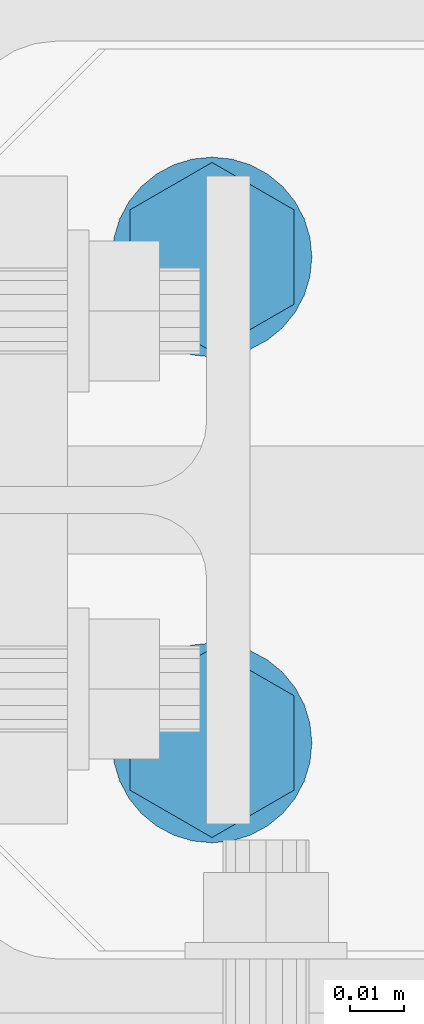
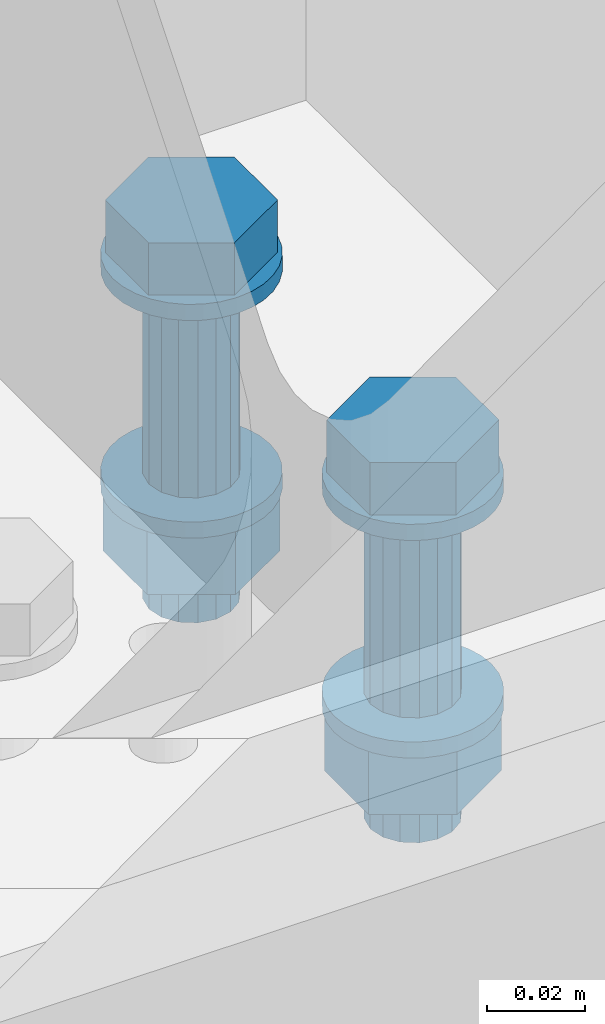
# One storey, part 382 of 825: 1 mechanical fastener.
"""IFC2X3 building model written with IfcOpenShell, lengths in millimetres."""

from ifc_helpers import new_model, entity, si_unit, converted_unit, origin_with_axes, place, context, project, spatial, faceted_brep, element, save


model = new_model("IFC2X3")

# Units and contexts
model_context = context("Model", 3, precision=1e-09, world=origin_with_axes())
ifc_project = project(units=[si_unit("LENGTHUNIT", "METRE", prefix="MILLI"), si_unit("AREAUNIT", "SQUARE_METRE"), si_unit("VOLUMEUNIT", "CUBIC_METRE"), converted_unit("PLANEANGLEUNIT", "DEGREE", entity("IfcPlaneAngleMeasure", 0.01745329), si_unit("PLANEANGLEUNIT", "RADIAN"), dimensions=[0, 0, 0, 0, 0, 0, 0])], contexts=[model_context])

# Site, building, storey
site_placement = place(None, origin_with_axes())
site = spatial("IfcSite", under=ifc_project, at=site_placement, Name="Cnopf'sche Kinderklinik", CompositionType="ELEMENT")
building_placement = place(site_placement, origin_with_axes())
building = spatial("IfcBuilding", under=site, at=building_placement, Name="Struktur 1", CompositionType="ELEMENT")
storey_placement = place(building_placement, origin_with_axes())
storey = spatial("IfcBuildingStorey", under=building, at=storey_placement, Name="Default Storey", CompositionType="ELEMENT", Elevation=0.0)

# Mechanical fastener
mechanical_fastener_placement = place(None, origin_with_axes())
element("IfcMechanicalFastener", 1, at=mechanical_fastener_placement, inside=storey, ObjectType="Bolt#2", NominalDiameter=20.0, NominalLength=85.0, context=model_context, shape_type="Brep", body=[
    faceted_brep([(4925.213402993, 7561.736971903, 12925.0), (4925.213402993, 7561.736971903, 12929.0), (4924.857930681, 7558.127800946, 12929.0), (4924.857930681, 7558.127800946, 12925.0), (4923.805174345, 7554.657328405, 12929.0), (4923.805174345, 7554.657328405, 12925.0), (4922.095590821, 7551.458922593, 12929.0), (4922.095590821, 7551.458922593, 12925.0), (4919.794878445, 7548.655496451, 12929.0), (4919.794878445, 7548.655496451, 12925.0), (4916.991452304, 7546.354784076, 12929.0), (4916.991452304, 7546.354784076, 12925.0), (4913.793046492, 7544.645200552, 12929.0), (4913.793046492, 7544.645200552, 12925.0), (4910.32257395, 7543.592444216, 12929.0), (4910.32257395, 7543.592444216, 12925.0), (4906.713402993, 7543.236971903, 12929.0), (4906.713402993, 7543.236971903, 12925.0), (4903.104232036, 7543.592444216, 12929.0), (4903.104232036, 7543.592444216, 12925.0), (4899.633759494, 7544.645200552, 12929.0), (4899.633759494, 7544.645200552, 12925.0), (4896.435353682, 7546.354784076, 12929.0), (4896.435353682, 7546.354784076, 12925.0), (4893.631927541, 7548.655496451, 12929.0), (4893.631927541, 7548.655496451, 12925.0), (4891.331215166, 7551.458922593, 12929.0), (4891.331215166, 7551.458922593, 12925.0), (4889.621631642, 7554.657328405, 12929.0), (4889.621631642, 7554.657328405, 12925.0), (4888.568875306, 7558.127800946, 12929.0), (4888.568875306, 7558.127800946, 12925.0), (4888.213402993, 7561.736971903, 12929.0), (4888.213402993, 7561.736971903, 12925.0), (4888.568875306, 7565.346142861, 12929.0), (4888.568875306, 7565.346142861, 12925.0), (4889.621631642, 7568.816615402, 12929.0), (4889.621631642, 7568.816615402, 12925.0), (4891.331215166, 7572.015021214, 12929.0), (4891.331215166, 7572.015021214, 12925.0), (4893.631927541, 7574.818447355, 12929.0), (4893.631927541, 7574.818447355, 12925.0), (4896.435353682, 7577.119159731, 12929.0), (4896.435353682, 7577.119159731, 12925.0), (4899.633759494, 7578.828743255, 12929.0), (4899.633759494, 7578.828743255, 12925.0), (4903.104232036, 7579.881499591, 12929.0), (4903.104232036, 7579.881499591, 12925.0), (4906.713402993, 7580.236971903, 12929.0), (4906.713402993, 7580.236971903, 12925.0), (4910.32257395, 7579.881499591, 12929.0), (4910.32257395, 7579.881499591, 12925.0), (4913.793046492, 7578.828743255, 12929.0), (4913.793046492, 7578.828743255, 12925.0), (4916.991452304, 7577.119159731, 12929.0), (4916.991452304, 7577.119159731, 12925.0), (4919.794878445, 7574.818447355, 12929.0), (4919.794878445, 7574.818447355, 12925.0), (4922.095590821, 7572.015021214, 12929.0), (4922.095590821, 7572.015021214, 12925.0), (4923.805174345, 7568.816615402, 12929.0), (4923.805174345, 7568.816615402, 12925.0), (4924.857930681, 7565.346142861, 12929.0), (4924.857930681, 7565.346142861, 12925.0)], [[[0, 1, 2, 3]], [[3, 2, 4, 5]], [[5, 4, 6, 7]], [[7, 6, 8, 9]], [[9, 8, 10, 11]], [[11, 10, 12, 13]], [[13, 12, 14, 15]], [[15, 14, 16, 17]], [[17, 16, 18, 19]], [[19, 18, 20, 21]], [[21, 20, 22, 23]], [[23, 22, 24, 25]], [[25, 24, 26, 27]], [[27, 26, 28, 29]], [[29, 28, 30, 31]], [[31, 30, 32, 33]], [[33, 32, 34, 35]], [[35, 34, 36, 37]], [[37, 36, 38, 39]], [[39, 38, 40, 41]], [[41, 40, 42, 43]], [[43, 42, 44, 45]], [[45, 44, 46, 47]], [[47, 46, 48, 49]], [[49, 48, 50, 51]], [[51, 50, 52, 53]], [[53, 52, 54, 55]], [[55, 54, 56, 57]], [[57, 56, 58, 59]], [[59, 58, 60, 61]], [[61, 60, 62, 63]], [[63, 62, 1, 0]], [[2, 1, 62, 60, 58, 56, 54, 52, 50, 48, 46, 44, 42, 40, 38, 36, 34, 32, 30, 28, 26, 24, 22, 20, 18, 16, 14, 12, 10, 8, 6, 4]], [[63, 0, 3, 5, 7, 9, 11, 13, 15, 17, 19, 21, 23, 25, 27, 29, 31, 33, 35, 37, 39, 41, 43, 45, 47, 49, 51, 53, 55, 57, 59, 61]]]),
    faceted_brep([(4925.213402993, 7471.736971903, 12925.0), (4925.213402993, 7471.736971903, 12929.0), (4924.857930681, 7468.127800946, 12929.0), (4924.857930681, 7468.127800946, 12925.0), (4923.805174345, 7464.657328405, 12929.0), (4923.805174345, 7464.657328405, 12925.0), (4922.095590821, 7461.458922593, 12929.0), (4922.095590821, 7461.458922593, 12925.0), (4919.794878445, 7458.655496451, 12929.0), (4919.794878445, 7458.655496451, 12925.0), (4916.991452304, 7456.354784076, 12929.0), (4916.991452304, 7456.354784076, 12925.0), (4913.793046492, 7454.645200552, 12929.0), (4913.793046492, 7454.645200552, 12925.0), (4910.32257395, 7453.592444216, 12929.0), (4910.32257395, 7453.592444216, 12925.0), (4906.713402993, 7453.236971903, 12929.0), (4906.713402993, 7453.236971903, 12925.0), (4903.104232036, 7453.592444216, 12929.0), (4903.104232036, 7453.592444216, 12925.0), (4899.633759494, 7454.645200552, 12929.0), (4899.633759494, 7454.645200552, 12925.0), (4896.435353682, 7456.354784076, 12929.0), (4896.435353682, 7456.354784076, 12925.0), (4893.631927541, 7458.655496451, 12929.0), (4893.631927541, 7458.655496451, 12925.0), (4891.331215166, 7461.458922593, 12929.0), (4891.331215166, 7461.458922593, 12925.0), (4889.621631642, 7464.657328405, 12929.0), (4889.621631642, 7464.657328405, 12925.0), (4888.568875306, 7468.127800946, 12929.0), (4888.568875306, 7468.127800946, 12925.0), (4888.213402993, 7471.736971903, 12929.0), (4888.213402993, 7471.736971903, 12925.0), (4888.568875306, 7475.346142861, 12929.0), (4888.568875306, 7475.346142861, 12925.0), (4889.621631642, 7478.816615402, 12929.0), (4889.621631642, 7478.816615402, 12925.0), (4891.331215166, 7482.015021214, 12929.0), (4891.331215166, 7482.015021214, 12925.0), (4893.631927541, 7484.818447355, 12929.0), (4893.631927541, 7484.818447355, 12925.0), (4896.435353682, 7487.119159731, 12929.0), (4896.435353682, 7487.119159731, 12925.0), (4899.633759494, 7488.828743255, 12929.0), (4899.633759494, 7488.828743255, 12925.0), (4903.104232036, 7489.881499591, 12929.0), (4903.104232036, 7489.881499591, 12925.0), (4906.713402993, 7490.236971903, 12929.0), (4906.713402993, 7490.236971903, 12925.0), (4910.32257395, 7489.881499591, 12929.0), (4910.32257395, 7489.881499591, 12925.0), (4913.793046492, 7488.828743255, 12929.0), (4913.793046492, 7488.828743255, 12925.0), (4916.991452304, 7487.119159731, 12929.0), (4916.991452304, 7487.119159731, 12925.0), (4919.794878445, 7484.818447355, 12929.0), (4919.794878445, 7484.818447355, 12925.0), (4922.095590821, 7482.015021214, 12929.0), (4922.095590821, 7482.015021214, 12925.0), (4923.805174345, 7478.816615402, 12929.0), (4923.805174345, 7478.816615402, 12925.0), (4924.857930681, 7475.346142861, 12929.0), (4924.857930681, 7475.346142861, 12925.0)], [[[0, 1, 2, 3]], [[3, 2, 4, 5]], [[5, 4, 6, 7]], [[7, 6, 8, 9]], [[9, 8, 10, 11]], [[11, 10, 12, 13]], [[13, 12, 14, 15]], [[15, 14, 16, 17]], [[17, 16, 18, 19]], [[19, 18, 20, 21]], [[21, 20, 22, 23]], [[23, 22, 24, 25]], [[25, 24, 26, 27]], [[27, 26, 28, 29]], [[29, 28, 30, 31]], [[31, 30, 32, 33]], [[33, 32, 34, 35]], [[35, 34, 36, 37]], [[37, 36, 38, 39]], [[39, 38, 40, 41]], [[41, 40, 42, 43]], [[43, 42, 44, 45]], [[45, 44, 46, 47]], [[47, 46, 48, 49]], [[49, 48, 50, 51]], [[51, 50, 52, 53]], [[53, 52, 54, 55]], [[55, 54, 56, 57]], [[57, 56, 58, 59]], [[59, 58, 60, 61]], [[61, 60, 62, 63]], [[63, 62, 1, 0]], [[2, 1, 62, 60, 58, 56, 54, 52, 50, 48, 46, 44, 42, 40, 38, 36, 34, 32, 30, 28, 26, 24, 22, 20, 18, 16, 14, 12, 10, 8, 6, 4]], [[63, 0, 3, 5, 7, 9, 11, 13, 15, 17, 19, 21, 23, 25, 27, 29, 31, 33, 35, 37, 39, 41, 43, 45, 47, 49, 51, 53, 55, 57, 59, 61]]]),
    faceted_brep([(4891.544968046, 7552.979471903, 12942.0), (4891.544968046, 7552.979471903, 12929.0), (4906.713402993, 7544.221971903, 12929.0), (4906.713402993, 7544.221971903, 12942.0), (4921.88183794, 7552.979471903, 12929.0), (4921.88183794, 7552.979471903, 12942.0), (4921.88183794, 7570.494471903, 12929.0), (4921.88183794, 7570.494471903, 12942.0), (4906.713402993, 7579.251971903, 12929.0), (4906.713402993, 7579.251971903, 12942.0), (4891.544968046, 7570.494471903, 12929.0), (4891.544968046, 7570.494471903, 12942.0)], [[[0, 1, 2, 3]], [[3, 2, 4, 5]], [[5, 4, 6, 7]], [[7, 6, 8, 9]], [[9, 8, 10, 11]], [[11, 10, 1, 0]], [[3, 5, 7, 9, 11, 0]], [[2, 1, 10, 8, 6, 4]]]),
    faceted_brep([(4891.544968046, 7462.979471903, 12942.0), (4891.544968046, 7462.979471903, 12929.0), (4906.713402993, 7454.221971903, 12929.0), (4906.713402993, 7454.221971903, 12942.0), (4921.88183794, 7462.979471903, 12929.0), (4921.88183794, 7462.979471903, 12942.0), (4921.88183794, 7480.494471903, 12929.0), (4921.88183794, 7480.494471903, 12942.0), (4906.713402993, 7489.251971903, 12929.0), (4906.713402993, 7489.251971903, 12942.0), (4891.544968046, 7480.494471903, 12929.0), (4891.544968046, 7480.494471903, 12942.0)], [[[0, 1, 2, 3]], [[3, 2, 4, 5]], [[5, 4, 6, 7]], [[7, 6, 8, 9]], [[9, 8, 10, 11]], [[11, 10, 1, 0]], [[3, 5, 7, 9, 11, 0]], [[2, 1, 10, 8, 6, 4]]]),
    faceted_brep([(4916.713402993, 7561.736971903, 12875.0), (4916.713402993, 7561.736971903, 12925.0), (4915.952198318, 7557.91013758, 12925.0), (4915.952198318, 7557.91013758, 12875.0), (4913.784470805, 7554.665904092, 12925.0), (4913.784470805, 7554.665904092, 12875.0), (4910.540237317, 7552.498176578, 12925.0), (4910.540237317, 7552.498176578, 12875.0), (4906.713402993, 7551.736971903, 12925.0), (4906.713402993, 7551.736971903, 12875.0), (4902.88656867, 7552.498176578, 12925.0), (4902.88656867, 7552.498176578, 12875.0), (4899.642335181, 7554.665904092, 12925.0), (4899.642335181, 7554.665904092, 12875.0), (4897.474607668, 7557.91013758, 12925.0), (4897.474607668, 7557.91013758, 12875.0), (4896.713402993, 7561.736971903, 12925.0), (4896.713402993, 7561.736971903, 12875.0), (4897.474607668, 7565.563806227, 12925.0), (4897.474607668, 7565.563806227, 12875.0), (4899.642335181, 7568.808039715, 12925.0), (4899.642335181, 7568.808039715, 12875.0), (4902.88656867, 7570.975767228, 12925.0), (4902.88656867, 7570.975767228, 12875.0), (4906.713402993, 7571.736971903, 12925.0), (4906.713402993, 7571.736971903, 12875.0), (4910.540237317, 7570.975767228, 12925.0), (4910.540237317, 7570.975767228, 12875.0), (4913.784470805, 7568.808039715, 12925.0), (4913.784470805, 7568.808039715, 12875.0), (4915.952198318, 7565.563806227, 12925.0), (4915.952198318, 7565.563806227, 12875.0)], [[[0, 1, 2, 3]], [[3, 2, 4, 5]], [[5, 4, 6, 7]], [[7, 6, 8, 9]], [[9, 8, 10, 11]], [[11, 10, 12, 13]], [[13, 12, 14, 15]], [[15, 14, 16, 17]], [[17, 16, 18, 19]], [[19, 18, 20, 21]], [[21, 20, 22, 23]], [[23, 22, 24, 25]], [[25, 24, 26, 27]], [[27, 26, 28, 29]], [[29, 28, 30, 31]], [[31, 30, 1, 0]], [[2, 1, 30, 28, 26, 24, 22, 20, 18, 16, 14, 12, 10, 8, 6, 4]], [[31, 0, 3, 5, 7, 9, 11, 13, 15, 17, 19, 21, 23, 25, 27, 29]]]),
    faceted_brep([(4916.713402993, 7471.736971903, 12875.0), (4916.713402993, 7471.736971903, 12925.0), (4915.952198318, 7467.91013758, 12925.0), (4915.952198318, 7467.91013758, 12875.0), (4913.784470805, 7464.665904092, 12925.0), (4913.784470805, 7464.665904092, 12875.0), (4910.540237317, 7462.498176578, 12925.0), (4910.540237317, 7462.498176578, 12875.0), (4906.713402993, 7461.736971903, 12925.0), (4906.713402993, 7461.736971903, 12875.0), (4902.88656867, 7462.498176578, 12925.0), (4902.88656867, 7462.498176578, 12875.0), (4899.642335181, 7464.665904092, 12925.0), (4899.642335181, 7464.665904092, 12875.0), (4897.474607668, 7467.91013758, 12925.0), (4897.474607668, 7467.91013758, 12875.0), (4896.713402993, 7471.736971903, 12925.0), (4896.713402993, 7471.736971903, 12875.0), (4897.474607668, 7475.563806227, 12925.0), (4897.474607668, 7475.563806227, 12875.0), (4899.642335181, 7478.808039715, 12925.0), (4899.642335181, 7478.808039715, 12875.0), (4902.88656867, 7480.975767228, 12925.0), (4902.88656867, 7480.975767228, 12875.0), (4906.713402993, 7481.736971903, 12925.0), (4906.713402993, 7481.736971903, 12875.0), (4910.540237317, 7480.975767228, 12925.0), (4910.540237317, 7480.975767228, 12875.0), (4913.784470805, 7478.808039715, 12925.0), (4913.784470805, 7478.808039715, 12875.0), (4915.952198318, 7475.563806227, 12925.0), (4915.952198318, 7475.563806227, 12875.0)], [[[0, 1, 2, 3]], [[3, 2, 4, 5]], [[5, 4, 6, 7]], [[7, 6, 8, 9]], [[9, 8, 10, 11]], [[11, 10, 12, 13]], [[13, 12, 14, 15]], [[15, 14, 16, 17]], [[17, 16, 18, 19]], [[19, 18, 20, 21]], [[21, 20, 22, 23]], [[23, 22, 24, 25]], [[25, 24, 26, 27]], [[27, 26, 28, 29]], [[29, 28, 30, 31]], [[31, 30, 1, 0]], [[2, 1, 30, 28, 26, 24, 22, 20, 18, 16, 14, 12, 10, 8, 6, 4]], [[31, 0, 3, 5, 7, 9, 11, 13, 15, 17, 19, 21, 23, 25, 27, 29]]]),
    faceted_brep([(4925.213402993, 7561.736971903, 12871.0), (4925.213402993, 7561.736971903, 12875.0), (4924.857930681, 7558.127800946, 12875.0), (4924.857930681, 7558.127800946, 12871.0), (4923.805174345, 7554.657328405, 12875.0), (4923.805174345, 7554.657328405, 12871.0), (4922.095590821, 7551.458922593, 12875.0), (4922.095590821, 7551.458922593, 12871.0), (4919.794878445, 7548.655496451, 12875.0), (4919.794878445, 7548.655496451, 12871.0), (4916.991452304, 7546.354784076, 12875.0), (4916.991452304, 7546.354784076, 12871.0), (4913.793046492, 7544.645200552, 12875.0), (4913.793046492, 7544.645200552, 12871.0), (4910.32257395, 7543.592444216, 12875.0), (4910.32257395, 7543.592444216, 12871.0), (4906.713402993, 7543.236971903, 12875.0), (4906.713402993, 7543.236971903, 12871.0), (4903.104232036, 7543.592444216, 12875.0), (4903.104232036, 7543.592444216, 12871.0), (4899.633759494, 7544.645200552, 12875.0), (4899.633759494, 7544.645200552, 12871.0), (4896.435353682, 7546.354784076, 12875.0), (4896.435353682, 7546.354784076, 12871.0), (4893.631927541, 7548.655496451, 12875.0), (4893.631927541, 7548.655496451, 12871.0), (4891.331215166, 7551.458922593, 12875.0), (4891.331215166, 7551.458922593, 12871.0), (4889.621631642, 7554.657328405, 12875.0), (4889.621631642, 7554.657328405, 12871.0), (4888.568875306, 7558.127800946, 12875.0), (4888.568875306, 7558.127800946, 12871.0), (4888.213402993, 7561.736971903, 12875.0), (4888.213402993, 7561.736971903, 12871.0), (4888.568875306, 7565.346142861, 12875.0), (4888.568875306, 7565.346142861, 12871.0), (4889.621631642, 7568.816615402, 12875.0), (4889.621631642, 7568.816615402, 12871.0), (4891.331215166, 7572.015021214, 12875.0), (4891.331215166, 7572.015021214, 12871.0), (4893.631927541, 7574.818447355, 12875.0), (4893.631927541, 7574.818447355, 12871.0), (4896.435353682, 7577.119159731, 12875.0), (4896.435353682, 7577.119159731, 12871.0), (4899.633759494, 7578.828743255, 12875.0), (4899.633759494, 7578.828743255, 12871.0), (4903.104232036, 7579.881499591, 12875.0), (4903.104232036, 7579.881499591, 12871.0), (4906.713402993, 7580.236971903, 12875.0), (4906.713402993, 7580.236971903, 12871.0), (4910.32257395, 7579.881499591, 12875.0), (4910.32257395, 7579.881499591, 12871.0), (4913.793046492, 7578.828743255, 12875.0), (4913.793046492, 7578.828743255, 12871.0), (4916.991452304, 7577.119159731, 12875.0), (4916.991452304, 7577.119159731, 12871.0), (4919.794878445, 7574.818447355, 12875.0), (4919.794878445, 7574.818447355, 12871.0), (4922.095590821, 7572.015021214, 12875.0), (4922.095590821, 7572.015021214, 12871.0), (4923.805174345, 7568.816615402, 12875.0), (4923.805174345, 7568.816615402, 12871.0), (4924.857930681, 7565.346142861, 12875.0), (4924.857930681, 7565.346142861, 12871.0)], [[[0, 1, 2, 3]], [[3, 2, 4, 5]], [[5, 4, 6, 7]], [[7, 6, 8, 9]], [[9, 8, 10, 11]], [[11, 10, 12, 13]], [[13, 12, 14, 15]], [[15, 14, 16, 17]], [[17, 16, 18, 19]], [[19, 18, 20, 21]], [[21, 20, 22, 23]], [[23, 22, 24, 25]], [[25, 24, 26, 27]], [[27, 26, 28, 29]], [[29, 28, 30, 31]], [[31, 30, 32, 33]], [[33, 32, 34, 35]], [[35, 34, 36, 37]], [[37, 36, 38, 39]], [[39, 38, 40, 41]], [[41, 40, 42, 43]], [[43, 42, 44, 45]], [[45, 44, 46, 47]], [[47, 46, 48, 49]], [[49, 48, 50, 51]], [[51, 50, 52, 53]], [[53, 52, 54, 55]], [[55, 54, 56, 57]], [[57, 56, 58, 59]], [[59, 58, 60, 61]], [[61, 60, 62, 63]], [[63, 62, 1, 0]], [[2, 1, 62, 60, 58, 56, 54, 52, 50, 48, 46, 44, 42, 40, 38, 36, 34, 32, 30, 28, 26, 24, 22, 20, 18, 16, 14, 12, 10, 8, 6, 4]], [[63, 0, 3, 5, 7, 9, 11, 13, 15, 17, 19, 21, 23, 25, 27, 29, 31, 33, 35, 37, 39, 41, 43, 45, 47, 49, 51, 53, 55, 57, 59, 61]]]),
    faceted_brep([(4925.213402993, 7471.736971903, 12871.0), (4925.213402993, 7471.736971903, 12875.0), (4924.857930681, 7468.127800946, 12875.0), (4924.857930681, 7468.127800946, 12871.0), (4923.805174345, 7464.657328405, 12875.0), (4923.805174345, 7464.657328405, 12871.0), (4922.095590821, 7461.458922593, 12875.0), (4922.095590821, 7461.458922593, 12871.0), (4919.794878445, 7458.655496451, 12875.0), (4919.794878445, 7458.655496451, 12871.0), (4916.991452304, 7456.354784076, 12875.0), (4916.991452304, 7456.354784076, 12871.0), (4913.793046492, 7454.645200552, 12875.0), (4913.793046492, 7454.645200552, 12871.0), (4910.32257395, 7453.592444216, 12875.0), (4910.32257395, 7453.592444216, 12871.0), (4906.713402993, 7453.236971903, 12875.0), (4906.713402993, 7453.236971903, 12871.0), (4903.104232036, 7453.592444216, 12875.0), (4903.104232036, 7453.592444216, 12871.0), (4899.633759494, 7454.645200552, 12875.0), (4899.633759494, 7454.645200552, 12871.0), (4896.435353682, 7456.354784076, 12875.0), (4896.435353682, 7456.354784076, 12871.0), (4893.631927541, 7458.655496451, 12875.0), (4893.631927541, 7458.655496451, 12871.0), (4891.331215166, 7461.458922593, 12875.0), (4891.331215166, 7461.458922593, 12871.0), (4889.621631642, 7464.657328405, 12875.0), (4889.621631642, 7464.657328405, 12871.0), (4888.568875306, 7468.127800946, 12875.0), (4888.568875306, 7468.127800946, 12871.0), (4888.213402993, 7471.736971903, 12875.0), (4888.213402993, 7471.736971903, 12871.0), (4888.568875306, 7475.346142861, 12875.0), (4888.568875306, 7475.346142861, 12871.0), (4889.621631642, 7478.816615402, 12875.0), (4889.621631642, 7478.816615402, 12871.0), (4891.331215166, 7482.015021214, 12875.0), (4891.331215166, 7482.015021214, 12871.0), (4893.631927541, 7484.818447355, 12875.0), (4893.631927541, 7484.818447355, 12871.0), (4896.435353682, 7487.119159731, 12875.0), (4896.435353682, 7487.119159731, 12871.0), (4899.633759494, 7488.828743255, 12875.0), (4899.633759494, 7488.828743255, 12871.0), (4903.104232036, 7489.881499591, 12875.0), (4903.104232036, 7489.881499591, 12871.0), (4906.713402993, 7490.236971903, 12875.0), (4906.713402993, 7490.236971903, 12871.0), (4910.32257395, 7489.881499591, 12875.0), (4910.32257395, 7489.881499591, 12871.0), (4913.793046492, 7488.828743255, 12875.0), (4913.793046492, 7488.828743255, 12871.0), (4916.991452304, 7487.119159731, 12875.0), (4916.991452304, 7487.119159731, 12871.0), (4919.794878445, 7484.818447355, 12875.0), (4919.794878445, 7484.818447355, 12871.0), (4922.095590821, 7482.015021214, 12875.0), (4922.095590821, 7482.015021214, 12871.0), (4923.805174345, 7478.816615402, 12875.0), (4923.805174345, 7478.816615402, 12871.0), (4924.857930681, 7475.346142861, 12875.0), (4924.857930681, 7475.346142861, 12871.0)], [[[0, 1, 2, 3]], [[3, 2, 4, 5]], [[5, 4, 6, 7]], [[7, 6, 8, 9]], [[9, 8, 10, 11]], [[11, 10, 12, 13]], [[13, 12, 14, 15]], [[15, 14, 16, 17]], [[17, 16, 18, 19]], [[19, 18, 20, 21]], [[21, 20, 22, 23]], [[23, 22, 24, 25]], [[25, 24, 26, 27]], [[27, 26, 28, 29]], [[29, 28, 30, 31]], [[31, 30, 32, 33]], [[33, 32, 34, 35]], [[35, 34, 36, 37]], [[37, 36, 38, 39]], [[39, 38, 40, 41]], [[41, 40, 42, 43]], [[43, 42, 44, 45]], [[45, 44, 46, 47]], [[47, 46, 48, 49]], [[49, 48, 50, 51]], [[51, 50, 52, 53]], [[53, 52, 54, 55]], [[55, 54, 56, 57]], [[57, 56, 58, 59]], [[59, 58, 60, 61]], [[61, 60, 62, 63]], [[63, 62, 1, 0]], [[2, 1, 62, 60, 58, 56, 54, 52, 50, 48, 46, 44, 42, 40, 38, 36, 34, 32, 30, 28, 26, 24, 22, 20, 18, 16, 14, 12, 10, 8, 6, 4]], [[63, 0, 3, 5, 7, 9, 11, 13, 15, 17, 19, 21, 23, 25, 27, 29, 31, 33, 35, 37, 39, 41, 43, 45, 47, 49, 51, 53, 55, 57, 59, 61]]]),
    faceted_brep([(4891.124945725, 7552.736971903, 12871.0), (4891.124945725, 7552.736971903, 12855.0), (4906.713402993, 7543.736971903, 12855.0), (4906.713402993, 7543.736971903, 12871.0), (4922.301860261, 7552.736971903, 12855.0), (4922.301860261, 7552.736971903, 12871.0), (4922.301860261, 7570.736971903, 12855.0), (4922.301860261, 7570.736971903, 12871.0), (4906.713402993, 7579.736971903, 12855.0), (4906.713402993, 7579.736971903, 12871.0), (4891.124945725, 7570.736971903, 12855.0), (4891.124945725, 7570.736971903, 12871.0)], [[[0, 1, 2, 3]], [[3, 2, 4, 5]], [[5, 4, 6, 7]], [[7, 6, 8, 9]], [[9, 8, 10, 11]], [[11, 10, 1, 0]], [[3, 5, 7, 9, 11, 0]], [[2, 1, 10, 8, 6, 4]]]),
    faceted_brep([(4891.124945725, 7462.736971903, 12871.0), (4891.124945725, 7462.736971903, 12855.0), (4906.713402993, 7453.736971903, 12855.0), (4906.713402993, 7453.736971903, 12871.0), (4922.301860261, 7462.736971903, 12855.0), (4922.301860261, 7462.736971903, 12871.0), (4922.301860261, 7480.736971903, 12855.0), (4922.301860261, 7480.736971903, 12871.0), (4906.713402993, 7489.736971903, 12855.0), (4906.713402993, 7489.736971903, 12871.0), (4891.124945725, 7480.736971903, 12855.0), (4891.124945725, 7480.736971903, 12871.0)], [[[0, 1, 2, 3]], [[3, 2, 4, 5]], [[5, 4, 6, 7]], [[7, 6, 8, 9]], [[9, 8, 10, 11]], [[11, 10, 1, 0]], [[3, 5, 7, 9, 11, 0]], [[2, 1, 10, 8, 6, 4]]]),
    faceted_brep([(4916.713402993, 7561.736971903, 12844.0), (4916.713402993, 7561.736971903, 12855.0), (4915.952198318, 7557.91013758, 12855.0), (4915.952198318, 7557.91013758, 12844.0), (4913.784470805, 7554.665904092, 12855.0), (4913.784470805, 7554.665904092, 12844.0), (4910.540237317, 7552.498176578, 12855.0), (4910.540237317, 7552.498176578, 12844.0), (4906.713402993, 7551.736971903, 12855.0), (4906.713402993, 7551.736971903, 12844.0), (4902.88656867, 7552.498176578, 12855.0), (4902.88656867, 7552.498176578, 12844.0), (4899.642335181, 7554.665904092, 12855.0), (4899.642335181, 7554.665904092, 12844.0), (4897.474607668, 7557.91013758, 12855.0), (4897.474607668, 7557.91013758, 12844.0), (4896.713402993, 7561.736971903, 12855.0), (4896.713402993, 7561.736971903, 12844.0), (4897.474607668, 7565.563806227, 12855.0), (4897.474607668, 7565.563806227, 12844.0), (4899.642335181, 7568.808039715, 12855.0), (4899.642335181, 7568.808039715, 12844.0), (4902.88656867, 7570.975767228, 12855.0), (4902.88656867, 7570.975767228, 12844.0), (4906.713402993, 7571.736971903, 12855.0), (4906.713402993, 7571.736971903, 12844.0), (4910.540237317, 7570.975767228, 12855.0), (4910.540237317, 7570.975767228, 12844.0), (4913.784470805, 7568.808039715, 12855.0), (4913.784470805, 7568.808039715, 12844.0), (4915.952198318, 7565.563806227, 12855.0), (4915.952198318, 7565.563806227, 12844.0)], [[[0, 1, 2, 3]], [[3, 2, 4, 5]], [[5, 4, 6, 7]], [[7, 6, 8, 9]], [[9, 8, 10, 11]], [[11, 10, 12, 13]], [[13, 12, 14, 15]], [[15, 14, 16, 17]], [[17, 16, 18, 19]], [[19, 18, 20, 21]], [[21, 20, 22, 23]], [[23, 22, 24, 25]], [[25, 24, 26, 27]], [[27, 26, 28, 29]], [[29, 28, 30, 31]], [[31, 30, 1, 0]], [[2, 1, 30, 28, 26, 24, 22, 20, 18, 16, 14, 12, 10, 8, 6, 4]], [[31, 0, 3, 5, 7, 9, 11, 13, 15, 17, 19, 21, 23, 25, 27, 29]]]),
    faceted_brep([(4916.713402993, 7471.736971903, 12844.0), (4916.713402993, 7471.736971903, 12855.0), (4915.952198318, 7467.91013758, 12855.0), (4915.952198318, 7467.91013758, 12844.0), (4913.784470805, 7464.665904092, 12855.0), (4913.784470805, 7464.665904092, 12844.0), (4910.540237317, 7462.498176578, 12855.0), (4910.540237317, 7462.498176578, 12844.0), (4906.713402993, 7461.736971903, 12855.0), (4906.713402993, 7461.736971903, 12844.0), (4902.88656867, 7462.498176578, 12855.0), (4902.88656867, 7462.498176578, 12844.0), (4899.642335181, 7464.665904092, 12855.0), (4899.642335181, 7464.665904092, 12844.0), (4897.474607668, 7467.91013758, 12855.0), (4897.474607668, 7467.91013758, 12844.0), (4896.713402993, 7471.736971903, 12855.0), (4896.713402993, 7471.736971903, 12844.0), (4897.474607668, 7475.563806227, 12855.0), (4897.474607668, 7475.563806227, 12844.0), (4899.642335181, 7478.808039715, 12855.0), (4899.642335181, 7478.808039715, 12844.0), (4902.88656867, 7480.975767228, 12855.0), (4902.88656867, 7480.975767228, 12844.0), (4906.713402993, 7481.736971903, 12855.0), (4906.713402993, 7481.736971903, 12844.0), (4910.540237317, 7480.975767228, 12855.0), (4910.540237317, 7480.975767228, 12844.0), (4913.784470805, 7478.808039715, 12855.0), (4913.784470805, 7478.808039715, 12844.0), (4915.952198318, 7475.563806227, 12855.0), (4915.952198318, 7475.563806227, 12844.0)], [[[0, 1, 2, 3]], [[3, 2, 4, 5]], [[5, 4, 6, 7]], [[7, 6, 8, 9]], [[9, 8, 10, 11]], [[11, 10, 12, 13]], [[13, 12, 14, 15]], [[15, 14, 16, 17]], [[17, 16, 18, 19]], [[19, 18, 20, 21]], [[21, 20, 22, 23]], [[23, 22, 24, 25]], [[25, 24, 26, 27]], [[27, 26, 28, 29]], [[29, 28, 30, 31]], [[31, 30, 1, 0]], [[2, 1, 30, 28, 26, 24, 22, 20, 18, 16, 14, 12, 10, 8, 6, 4]], [[31, 0, 3, 5, 7, 9, 11, 13, 15, 17, 19, 21, 23, 25, 27, 29]]]),
])

save(model, "model.ifc")
